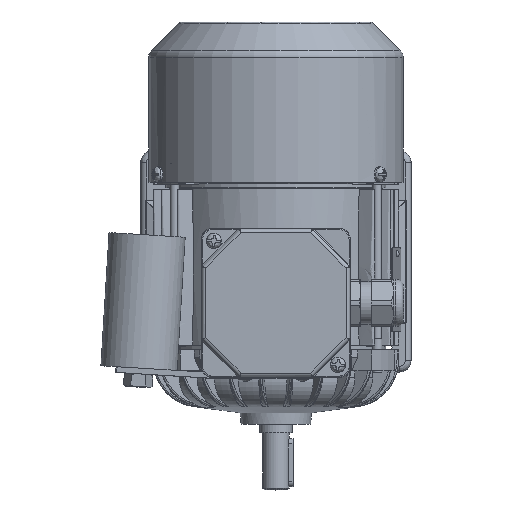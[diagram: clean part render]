
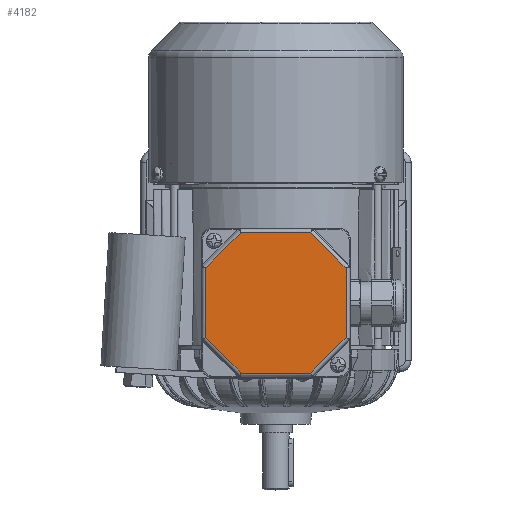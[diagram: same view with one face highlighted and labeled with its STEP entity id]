
A CAD part, top view. The second image highlights one B-rep face of the part: STEP entity #4182.
In plain terms, the highlighted planar face has unit normal (0, 0, 1).
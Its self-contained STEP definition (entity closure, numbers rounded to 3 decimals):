
#4182 = ADVANCED_FACE( '', ( #10591 ), #10592, .T. );
#10591 = FACE_OUTER_BOUND( '', #24090, .T. );
#10592 = PLANE( '', #24091 );
#24090 = EDGE_LOOP( '', ( #89452, #89453, #89454, #89455, #89456, #89457, #89458, #89459 ) );
#24091 = AXIS2_PLACEMENT_3D( '', #89460, #89461, #89462 );
#89452 = ORIENTED_EDGE( '', *, *, #112605, .T. );
#89453 = ORIENTED_EDGE( '', *, *, #113814, .T. );
#89454 = ORIENTED_EDGE( '', *, *, #113815, .T. );
#89455 = ORIENTED_EDGE( '', *, *, #113816, .T. );
#89456 = ORIENTED_EDGE( '', *, *, #113817, .T. );
#89457 = ORIENTED_EDGE( '', *, *, #113818, .T. );
#89458 = ORIENTED_EDGE( '', *, *, #113819, .T. );
#89459 = ORIENTED_EDGE( '', *, *, #113820, .T. );
#89460 = CARTESIAN_POINT( '', ( -39., 39., 12. ) );
#89461 = DIRECTION( '', ( 0., 0., 1. ) );
#89462 = DIRECTION( '', ( 1., 0., 0. ) );
#112605 = EDGE_CURVE( '', #123494, #123546, #123578, .F. );
#113814 = EDGE_CURVE( '', #123546, #125783, #125784, .T. );
#113815 = EDGE_CURVE( '', #125783, #125785, #125786, .F. );
#113816 = EDGE_CURVE( '', #125785, #125787, #125788, .T. );
#113817 = EDGE_CURVE( '', #125787, #125789, #125790, .F. );
#113818 = EDGE_CURVE( '', #125789, #125791, #125792, .T. );
#113819 = EDGE_CURVE( '', #125791, #125793, #125794, .F. );
#113820 = EDGE_CURVE( '', #125793, #123494, #125795, .T. );
#123494 = VERTEX_POINT( '', #141585 );
#123546 = VERTEX_POINT( '', #141654 );
#123578 = LINE( '', #141698, #141699 );
#125783 = VERTEX_POINT( '', #149609 );
#125784 = LINE( '', #149610, #149611 );
#125785 = VERTEX_POINT( '', #149612 );
#125786 = LINE( '', #149613, #149614 );
#125787 = VERTEX_POINT( '', #149615 );
#125788 = LINE( '', #149616, #149617 );
#125789 = VERTEX_POINT( '', #149618 );
#125790 = LINE( '', #149619, #149620 );
#125791 = VERTEX_POINT( '', #149621 );
#125792 = LINE( '', #149622, #149623 );
#125793 = VERTEX_POINT( '', #149624 );
#125794 = LINE( '', #149625, #149626 );
#125795 = LINE( '', #149627, #149628 );
#141585 = CARTESIAN_POINT( '', ( 36.825, -18.255, 12. ) );
#141654 = CARTESIAN_POINT( '', ( 36.825, 18.255, 12. ) );
#141698 = CARTESIAN_POINT( '', ( 36.825, 19.069, 12. ) );
#141699 = VECTOR( '', #201122, 1000. );
#149609 = CARTESIAN_POINT( '', ( 18.255, 36.825, 12. ) );
#149610 = CARTESIAN_POINT( '', ( 17.679, 37.401, 12. ) );
#149611 = VECTOR( '', #202893, 1000. );
#149612 = CARTESIAN_POINT( '', ( -18.255, 36.825, 12. ) );
#149613 = CARTESIAN_POINT( '', ( -19.069, 36.825, 12. ) );
#149614 = VECTOR( '', #202894, 1000. );
#149615 = CARTESIAN_POINT( '', ( -36.825, 18.255, 12. ) );
#149616 = CARTESIAN_POINT( '', ( -37.401, 17.679, 12. ) );
#149617 = VECTOR( '', #202895, 1000. );
#149618 = CARTESIAN_POINT( '', ( -36.825, -18.255, 12. ) );
#149619 = CARTESIAN_POINT( '', ( -36.825, -19.069, 12. ) );
#149620 = VECTOR( '', #202896, 1000. );
#149621 = CARTESIAN_POINT( '', ( -18.255, -36.825, 12. ) );
#149622 = CARTESIAN_POINT( '', ( -17.679, -37.401, 12. ) );
#149623 = VECTOR( '', #202897, 1000. );
#149624 = CARTESIAN_POINT( '', ( 18.255, -36.825, 12. ) );
#149625 = CARTESIAN_POINT( '', ( 19.069, -36.825, 12. ) );
#149626 = VECTOR( '', #202898, 1000. );
#149627 = CARTESIAN_POINT( '', ( 37.401, -17.679, 12. ) );
#149628 = VECTOR( '', #202899, 1000. );
#201122 = DIRECTION( '', ( 0., -1., 0. ) );
#202893 = DIRECTION( '', ( -0.707, 0.707, 0. ) );
#202894 = DIRECTION( '', ( 1., 0., 0. ) );
#202895 = DIRECTION( '', ( -0.707, -0.707, 0. ) );
#202896 = DIRECTION( '', ( 0., 1., 0. ) );
#202897 = DIRECTION( '', ( 0.707, -0.707, 0. ) );
#202898 = DIRECTION( '', ( -1., 0., 0. ) );
#202899 = DIRECTION( '', ( 0.707, 0.707, 0. ) );
